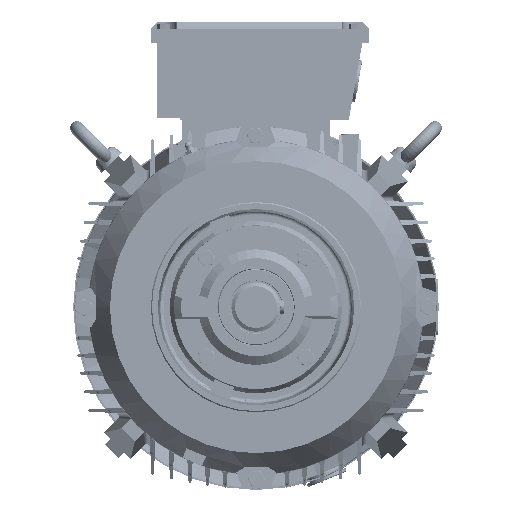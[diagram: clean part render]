
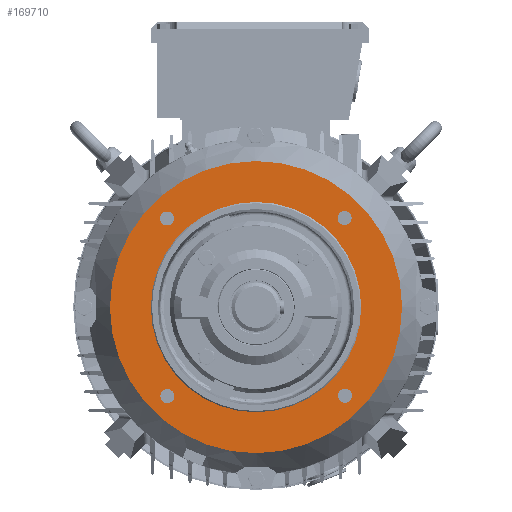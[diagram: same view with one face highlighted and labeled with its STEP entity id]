
A CAD part, left-side view. The second image highlights one B-rep face of the part: STEP entity #169710.
In plain terms, the highlighted planar face has unit normal (-1, 0, 0).
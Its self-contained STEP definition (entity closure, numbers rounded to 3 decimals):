
#88380 = CARTESIAN_POINT ( 'NONE',  ( -24., 76.014, -70.014 ) ) ;
#88382 = CARTESIAN_POINT ( 'NONE',  ( -24., 76.014, -82.014 ) ) ;
#88385 = DIRECTION ( 'NONE',  ( 0., 0., -1. ) ) ;
#88387 = DIRECTION ( 'NONE',  ( -1., 0., 0. ) ) ;
#88388 = CARTESIAN_POINT ( 'NONE',  ( -24., 76.014, -76.014 ) ) ;
#88389 = AXIS2_PLACEMENT_3D ( 'NONE', #88388, #88387, #88385 ) ;
#88391 = CIRCLE ( 'NONE', #88389, 6. ) ;
#88439 = CARTESIAN_POINT ( 'NONE',  ( -24., -76.014, -70.014 ) ) ;
#88441 = CARTESIAN_POINT ( 'NONE',  ( -24., -76.014, -82.014 ) ) ;
#88444 = DIRECTION ( 'NONE',  ( 0., 0., -1. ) ) ;
#88446 = DIRECTION ( 'NONE',  ( -1., 0., 0. ) ) ;
#88448 = CARTESIAN_POINT ( 'NONE',  ( -24., -76.014, -76.014 ) ) ;
#88449 = AXIS2_PLACEMENT_3D ( 'NONE', #88448, #88446, #88444 ) ;
#88451 = CIRCLE ( 'NONE', #88449, 6. ) ;
#88521 = CARTESIAN_POINT ( 'NONE',  ( -24., -76.014, 82.014 ) ) ;
#88523 = CARTESIAN_POINT ( 'NONE',  ( -24., -76.014, 70.014 ) ) ;
#88524 = DIRECTION ( 'NONE',  ( 0., 0., -1. ) ) ;
#88526 = DIRECTION ( 'NONE',  ( -1., 0., 0. ) ) ;
#88528 = CARTESIAN_POINT ( 'NONE',  ( -24., -76.014, 76.014 ) ) ;
#88529 = AXIS2_PLACEMENT_3D ( 'NONE', #88528, #88526, #88524 ) ;
#88541 = CIRCLE ( 'NONE', #88529, 6. ) ;
#88791 = CARTESIAN_POINT ( 'NONE',  ( -24., 0., -90. ) ) ;
#88833 = CARTESIAN_POINT ( 'NONE',  ( -24., 76.014, 82.014 ) ) ;
#88836 = CARTESIAN_POINT ( 'NONE',  ( -24., 76.014, 70.014 ) ) ;
#88838 = DIRECTION ( 'NONE',  ( 0., 0., -1. ) ) ;
#88840 = DIRECTION ( 'NONE',  ( -1., 0., 0. ) ) ;
#88842 = CARTESIAN_POINT ( 'NONE',  ( -24., 76.014, 76.014 ) ) ;
#88843 = AXIS2_PLACEMENT_3D ( 'NONE', #88842, #88840, #88838 ) ;
#88846 = CIRCLE ( 'NONE', #88843, 6. ) ;
#90594 = CARTESIAN_POINT ( 'NONE',  ( -24., 0., 125. ) ) ;
#90596 = DIRECTION ( 'NONE',  ( 0., 0., 1. ) ) ;
#90598 = DIRECTION ( 'NONE',  ( -1., 0., 0. ) ) ;
#90599 = CARTESIAN_POINT ( 'NONE',  ( -24., 0., 0. ) ) ;
#90601 = AXIS2_PLACEMENT_3D ( 'NONE', #90599, #90598, #90596 ) ;
#90603 = CIRCLE ( 'NONE', #90601, 125. ) ;
#90609 = CARTESIAN_POINT ( 'NONE',  ( -24., 0., -125. ) ) ;
#90808 = CIRCLE ( 'NONE', #90943, 90. ) ;
#90936 = CARTESIAN_POINT ( 'NONE',  ( -24., 0., 90. ) ) ;
#90938 = DIRECTION ( 'NONE',  ( 0., 0., 1. ) ) ;
#90940 = DIRECTION ( 'NONE',  ( -1., 0., 0. ) ) ;
#90942 = CARTESIAN_POINT ( 'NONE',  ( -24., 0., 0. ) ) ;
#90943 = AXIS2_PLACEMENT_3D ( 'NONE', #90942, #90940, #90938 ) ;
#97311 = CIRCLE ( 'NONE', #97320, 90. ) ;
#97320 = AXIS2_PLACEMENT_3D ( 'NONE', #97451, #97450, #97448 ) ;
#97448 = DIRECTION ( 'NONE',  ( 0., 0., 1. ) ) ;
#97450 = DIRECTION ( 'NONE',  ( -1., 0., 0. ) ) ;
#97451 = CARTESIAN_POINT ( 'NONE',  ( -24., 0., 0. ) ) ;
#97456 = DIRECTION ( 'NONE',  ( 0., 0., -1. ) ) ;
#97458 = DIRECTION ( 'NONE',  ( -1., 0., 0. ) ) ;
#97460 = CARTESIAN_POINT ( 'NONE',  ( -24., 76.014, -76.014 ) ) ;
#97461 = AXIS2_PLACEMENT_3D ( 'NONE', #97460, #97458, #97456 ) ;
#97463 = CIRCLE ( 'NONE', #97461, 6. ) ;
#97533 = DIRECTION ( 'NONE',  ( 0., 0., -1. ) ) ;
#97535 = DIRECTION ( 'NONE',  ( -1., 0., 0. ) ) ;
#97537 = CARTESIAN_POINT ( 'NONE',  ( -24., -76.014, -76.014 ) ) ;
#97539 = AXIS2_PLACEMENT_3D ( 'NONE', #97537, #97535, #97533 ) ;
#97541 = CIRCLE ( 'NONE', #97539, 6. ) ;
#97546 = DIRECTION ( 'NONE',  ( 0., 0., -1. ) ) ;
#97547 = DIRECTION ( 'NONE',  ( -1., 0., 0. ) ) ;
#97549 = AXIS2_PLACEMENT_3D ( 'NONE', #97559, #97547, #97546 ) ;
#97550 = CIRCLE ( 'NONE', #97549, 6. ) ;
#97555 = DIRECTION ( 'NONE',  ( 0., 0., -1. ) ) ;
#97557 = DIRECTION ( 'NONE',  ( 1., 0., 0. ) ) ;
#97558 = AXIS2_PLACEMENT_3D ( 'NONE', #97564, #97557, #97555 ) ;
#97559 = CARTESIAN_POINT ( 'NONE',  ( -24., -76.014, 76.014 ) ) ;
#97564 = CARTESIAN_POINT ( 'NONE',  ( -24., 90., 0. ) ) ;
#97566 = PLANE ( 'NONE',  #97558 ) ;
#97568 = FACE_OUTER_BOUND ( 'NONE', #169698, .T. ) ;
#97569 = FACE_BOUND ( 'NONE', #169692, .T. ) ;
#97570 = FACE_BOUND ( 'NONE', #169683, .T. ) ;
#97572 = FACE_BOUND ( 'NONE', #169723, .T. ) ;
#97573 = FACE_BOUND ( 'NONE', #169719, .T. ) ;
#97574 = FACE_BOUND ( 'NONE', #169711, .T. ) ;
#97577 = DIRECTION ( 'NONE',  ( 0., 0., 1. ) ) ;
#97579 = DIRECTION ( 'NONE',  ( -1., 0., 0. ) ) ;
#97580 = CARTESIAN_POINT ( 'NONE',  ( -24., 0., 0. ) ) ;
#97582 = AXIS2_PLACEMENT_3D ( 'NONE', #97580, #97579, #97577 ) ;
#97584 = CIRCLE ( 'NONE', #97582, 125. ) ;
#97588 = DIRECTION ( 'NONE',  ( 0., 0., -1. ) ) ;
#97590 = DIRECTION ( 'NONE',  ( -1., 0., 0. ) ) ;
#97591 = CARTESIAN_POINT ( 'NONE',  ( -24., 76.014, 76.014 ) ) ;
#97592 = AXIS2_PLACEMENT_3D ( 'NONE', #97591, #97590, #97588 ) ;
#97594 = CIRCLE ( 'NONE', #97592, 6. ) ;
#166779 = EDGE_CURVE ( 'NONE', #166781, #166784, #88391, .T. ) ;
#166781 = VERTEX_POINT ( 'NONE', #88382 ) ;
#166784 = VERTEX_POINT ( 'NONE', #88380 ) ;
#166806 = EDGE_CURVE ( 'NONE', #166808, #166810, #88451, .T. ) ;
#166808 = VERTEX_POINT ( 'NONE', #88441 ) ;
#166810 = VERTEX_POINT ( 'NONE', #88439 ) ;
#166837 = EDGE_CURVE ( 'NONE', #166839, #166840, #88541, .T. ) ;
#166839 = VERTEX_POINT ( 'NONE', #88523 ) ;
#166840 = VERTEX_POINT ( 'NONE', #88521 ) ;
#166899 = EDGE_CURVE ( 'NONE', #166902, #166904, #88846, .T. ) ;
#166902 = VERTEX_POINT ( 'NONE', #88836 ) ;
#166904 = VERTEX_POINT ( 'NONE', #88833 ) ;
#166925 = VERTEX_POINT ( 'NONE', #88791 ) ;
#167550 = VERTEX_POINT ( 'NONE', #90609 ) ;
#167552 = EDGE_CURVE ( 'NONE', #167553, #167550, #90603, .T. ) ;
#167553 = VERTEX_POINT ( 'NONE', #90594 ) ;
#167661 = EDGE_CURVE ( 'NONE', #167663, #166925, #90808, .T. ) ;
#167663 = VERTEX_POINT ( 'NONE', #90936 ) ;
#169608 = EDGE_CURVE ( 'NONE', #166925, #167663, #97311, .T. ) ;
#169677 = ORIENTED_EDGE ( 'NONE', *, *, #166779, .F. ) ;
#169679 = ORIENTED_EDGE ( 'NONE', *, *, #169681, .F. ) ;
#169681 = EDGE_CURVE ( 'NONE', #166784, #166781, #97463, .T. ) ;
#169683 = EDGE_LOOP ( 'NONE', ( #169685, #169687 ) ) ;
#169685 = ORIENTED_EDGE ( 'NONE', *, *, #166899, .F. ) ;
#169687 = ORIENTED_EDGE ( 'NONE', *, *, #169689, .F. ) ;
#169689 = EDGE_CURVE ( 'NONE', #166904, #166902, #97594, .T. ) ;
#169692 = EDGE_LOOP ( 'NONE', ( #169694, #169696 ) ) ;
#169694 = ORIENTED_EDGE ( 'NONE', *, *, #167661, .F. ) ;
#169696 = ORIENTED_EDGE ( 'NONE', *, *, #169608, .F. ) ;
#169698 = EDGE_LOOP ( 'NONE', ( #169700, #169702 ) ) ;
#169700 = ORIENTED_EDGE ( 'NONE', *, *, #167552, .T. ) ;
#169702 = ORIENTED_EDGE ( 'NONE', *, *, #169704, .T. ) ;
#169704 = EDGE_CURVE ( 'NONE', #167550, #167553, #97584, .T. ) ;
#169710 = ADVANCED_FACE ( 'NONE', ( #97574, #97573, #97572, #97570, #97569, #97568 ), #97566, .F. ) ;
#169711 = EDGE_LOOP ( 'NONE', ( #169712, #169714 ) ) ;
#169712 = ORIENTED_EDGE ( 'NONE', *, *, #166837, .F. ) ;
#169714 = ORIENTED_EDGE ( 'NONE', *, *, #169716, .F. ) ;
#169716 = EDGE_CURVE ( 'NONE', #166840, #166839, #97550, .T. ) ;
#169719 = EDGE_LOOP ( 'NONE', ( #169720, #169721 ) ) ;
#169720 = ORIENTED_EDGE ( 'NONE', *, *, #166806, .F. ) ;
#169721 = ORIENTED_EDGE ( 'NONE', *, *, #169722, .F. ) ;
#169722 = EDGE_CURVE ( 'NONE', #166810, #166808, #97541, .T. ) ;
#169723 = EDGE_LOOP ( 'NONE', ( #169677, #169679 ) ) ;
